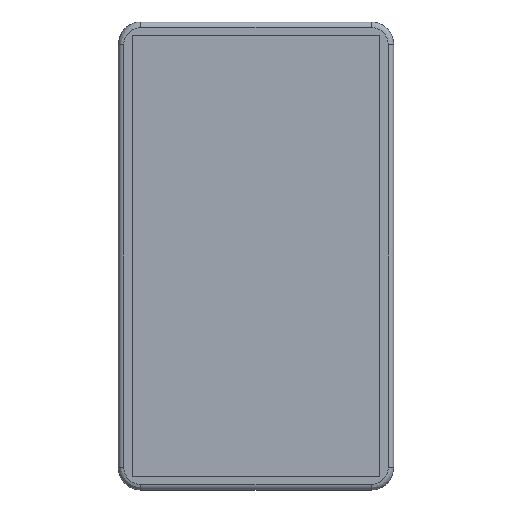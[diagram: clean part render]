
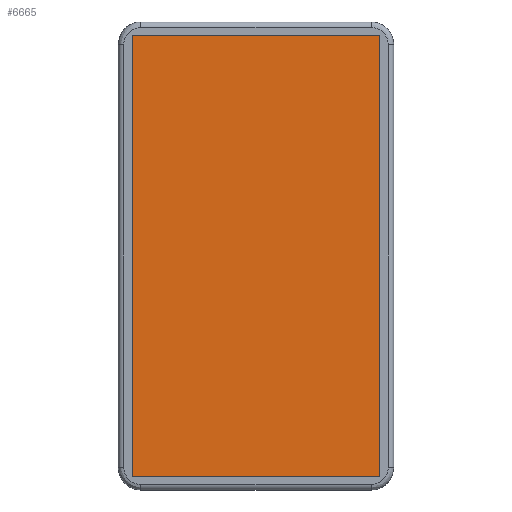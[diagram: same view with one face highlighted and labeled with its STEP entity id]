
A CAD part, front view. The second image highlights one B-rep face of the part: STEP entity #6665.
In plain terms, the highlighted planar face has unit normal (0, -1, 0).
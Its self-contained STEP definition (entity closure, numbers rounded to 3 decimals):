
#4666=DIRECTION('',(1.,0.,0.));
#4667=VECTOR('',#4666,44.988);
#4668=CARTESIAN_POINT('',(-22.494,-1.9,40.069));
#4669=LINE('',#4668,#4667);
#4673=DIRECTION('',(0.,0.,-1.));
#4674=VECTOR('',#4673,80.138);
#4675=CARTESIAN_POINT('',(22.494,-1.9,40.069));
#4676=LINE('',#4675,#4674);
#4680=DIRECTION('',(-1.,0.,0.));
#4681=VECTOR('',#4680,44.988);
#4682=CARTESIAN_POINT('',(22.494,-1.9,-40.069));
#4683=LINE('',#4682,#4681);
#4687=DIRECTION('',(0.,0.,1.));
#4688=VECTOR('',#4687,80.138);
#4689=CARTESIAN_POINT('',(-22.494,-1.9,-40.069));
#4690=LINE('',#4689,#4688);
#4893=CARTESIAN_POINT('',(-22.494,-1.9,40.069));
#4894=CARTESIAN_POINT('',(22.494,-1.9,40.069));
#4895=VERTEX_POINT('',#4893);
#4896=VERTEX_POINT('',#4894);
#4899=CARTESIAN_POINT('',(22.494,-1.9,-40.069));
#4900=VERTEX_POINT('',#4899);
#4903=CARTESIAN_POINT('',(-22.494,-1.9,-40.069));
#4904=VERTEX_POINT('',#4903);
#6654=CARTESIAN_POINT('',(0.,-1.9,0.));
#6655=DIRECTION('',(0.,1.,0.));
#6656=DIRECTION('',(0.,0.,-1.));
#6657=AXIS2_PLACEMENT_3D('',#6654,#6655,#6656);
#6658=PLANE('',#6657);
#6659=ORIENTED_EDGE('',*,*,#6606,.T.);
#6660=ORIENTED_EDGE('',*,*,#6621,.T.);
#6661=ORIENTED_EDGE('',*,*,#6635,.T.);
#6662=ORIENTED_EDGE('',*,*,#6648,.T.);
#6663=EDGE_LOOP('',(#6659,#6660,#6661,#6662));
#6664=FACE_OUTER_BOUND('',#6663,.F.);
#6606=EDGE_CURVE('',#4895,#4896,#4669,.T.);
#6621=EDGE_CURVE('',#4896,#4900,#4676,.T.);
#6635=EDGE_CURVE('',#4900,#4904,#4683,.T.);
#6648=EDGE_CURVE('',#4904,#4895,#4690,.T.);
#6665=ADVANCED_FACE('',(#6664),#6658,.F.);
